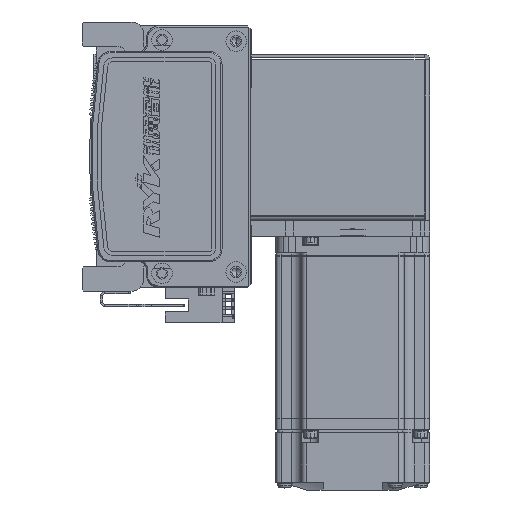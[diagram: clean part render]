
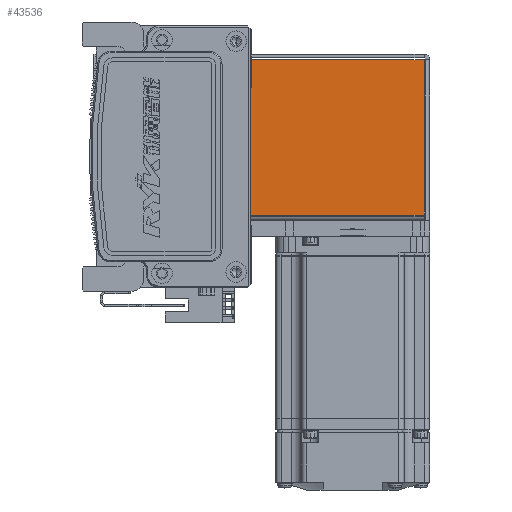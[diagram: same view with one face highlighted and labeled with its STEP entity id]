
A CAD part, left-side view. The second image highlights one B-rep face of the part: STEP entity #43536.
In plain terms, the highlighted planar face has unit normal (-1, 0, 0) as drawn and (0, 0, -1) by its records, which use the part's own axes.
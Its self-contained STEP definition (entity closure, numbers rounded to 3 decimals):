
#406 = DIRECTION ( 'NONE',  ( 0., -1., 0. ) ) ;
#864 = DIRECTION ( 'NONE',  ( 0., 0., 1. ) ) ;
#3170 = CARTESIAN_POINT ( 'NONE',  ( 32.5, 0.737, -35. ) ) ;
#3335 = VERTEX_POINT ( 'NONE', #33923 ) ;
#8597 = EDGE_LOOP ( 'NONE', ( #36212, #68431, #21965, #54585 ) ) ;
#10608 = VECTOR ( 'NONE', #27845, 1000. ) ;
#11074 = EDGE_CURVE ( 'NONE', #3335, #33179, #52861, .T. ) ;
#16373 = DIRECTION ( 'NONE',  ( 0., -1., 0. ) ) ;
#17191 = LINE ( 'NONE', #3170, #43147 ) ;
#17569 = LINE ( 'NONE', #24214, #10608 ) ;
#21150 = DIRECTION ( 'NONE',  ( 1., 0., 0. ) ) ;
#21423 = CARTESIAN_POINT ( 'NONE',  ( 30.263, 72.5, -35. ) ) ;
#21543 = FACE_OUTER_BOUND ( 'NONE', #8597, .T. ) ;
#21965 = ORIENTED_EDGE ( 'NONE', *, *, #23184, .T. ) ;
#23184 = EDGE_CURVE ( 'NONE', #68530, #3335, #17569, .T. ) ;
#24214 = CARTESIAN_POINT ( 'NONE',  ( -30.293, 0., -35. ) ) ;
#27845 = DIRECTION ( 'NONE',  ( 0., 1., 0. ) ) ;
#30541 = CARTESIAN_POINT ( 'NONE',  ( -30.293, 0.737, -35. ) ) ;
#31233 = DIRECTION ( 'NONE',  ( 1., 0., 0. ) ) ;
#33179 = VERTEX_POINT ( 'NONE', #65041 ) ;
#33923 = CARTESIAN_POINT ( 'NONE',  ( -30.293, 72.5, -35. ) ) ;
#35594 = VECTOR ( 'NONE', #16373, 1000. ) ;
#36212 = ORIENTED_EDGE ( 'NONE', *, *, #71432, .T. ) ;
#43147 = VECTOR ( 'NONE', #31233, 1000. ) ;
#43177 = CARTESIAN_POINT ( 'NONE',  ( 0., 72.5, -35. ) ) ;
#43536 = ADVANCED_FACE ( 'NONE', ( #21543 ), #50286, .F. ) ;
#48626 = LINE ( 'NONE', #21423, #35594 ) ;
#50286 = PLANE ( 'NONE',  #61814 ) ;
#52333 = EDGE_CURVE ( 'NONE', #68530, #55284, #17191, .T. ) ;
#52861 = LINE ( 'NONE', #43177, #62392 ) ;
#54585 = ORIENTED_EDGE ( 'NONE', *, *, #11074, .T. ) ;
#55284 = VERTEX_POINT ( 'NONE', #56082 ) ;
#56082 = CARTESIAN_POINT ( 'NONE',  ( 30.263, 0.737, -35. ) ) ;
#61708 = CARTESIAN_POINT ( 'NONE',  ( 0., 0., -35. ) ) ;
#61814 = AXIS2_PLACEMENT_3D ( 'NONE', #61708, #864, #406 ) ;
#62392 = VECTOR ( 'NONE', #21150, 1000. ) ;
#65041 = CARTESIAN_POINT ( 'NONE',  ( 30.263, 72.5, -35. ) ) ;
#68431 = ORIENTED_EDGE ( 'NONE', *, *, #52333, .F. ) ;
#68530 = VERTEX_POINT ( 'NONE', #30541 ) ;
#71432 = EDGE_CURVE ( 'NONE', #33179, #55284, #48626, .T. ) ;
